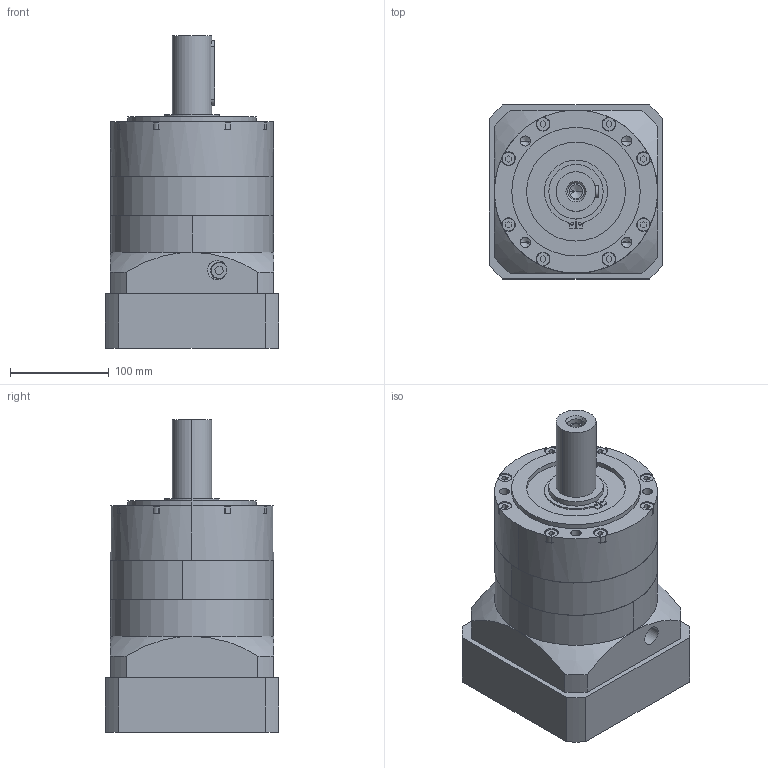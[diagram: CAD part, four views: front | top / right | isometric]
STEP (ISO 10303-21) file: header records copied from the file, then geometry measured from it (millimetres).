
FILE_DESCRIPTION (( 'STEP AP203' ), '1' );
FILE_NAME ('PLE160-L1-42-114.3-200.STEP', '2022-07-04T08:39:02', ( 'Windows User' ), ( 'P R C' ), 'SwSTEP 2.0', 'SolidWorks 2016', '' );
FILE_SCHEMA (( 'CONFIG_CONTROL_DESIGN' ));
Length unit declared in the file: millimetre
Products named in the file (8): GB／T276-94深沟球轴承6011-2RZ; PLE160-帣釱-薊粣ん-42-LR66; PLE160-蟀諉啣-114.3-M10-200-55L_2; PLE160-L1-42-114.3-200; GB／T70．1-2000内六角圆柱头螺钉M10×35; PLE160 κｳﾝﾈｦ_ﾒｻｼｶﾄﾚｳﾝﾈｦ; PLE160 奻屳唳; 邧埴瑩 12x8x65
Assembly tree (8 placements, depth 2):
  PLE160-L1-42-114.3-200
    GB／T70．1-2000内六角圆柱头螺钉M10×35  x2
    PLE160 κｳﾝﾈｦ_ﾒｻｼｶﾄﾚｳﾝﾈｦ
    PLE160 奻屳唳
    邧埴瑩 12x8x65
    GB／T276-94深沟球轴承6011-2RZ
    PLE160-帣釱-薊粣ん-42-LR66
    PLE160-蟀諉啣-114.3-M10-200-55L_2
Bounding box: 176 x 176 x 316 mm (x, y, z)
Volume: 4729097.2 mm3; surface area: 487224.2 mm2
Topology: 8 solids, 16 shells, 1197 faces, 3232 edges, 2120 vertices
Faces by surface type: plane 642, cylinder 236, bspline 144, sphere 83, torus 56, cone 36
Entity records: 47382 total; most frequent: CARTESIAN_POINT 18131, ORIENTED_EDGE 6214, DIRECTION 5394, EDGE_CURVE 3107, VERTEX_POINT 2058, AXIS2_PLACEMENT_3D 1902, VECTOR 1590, LINE 1590
